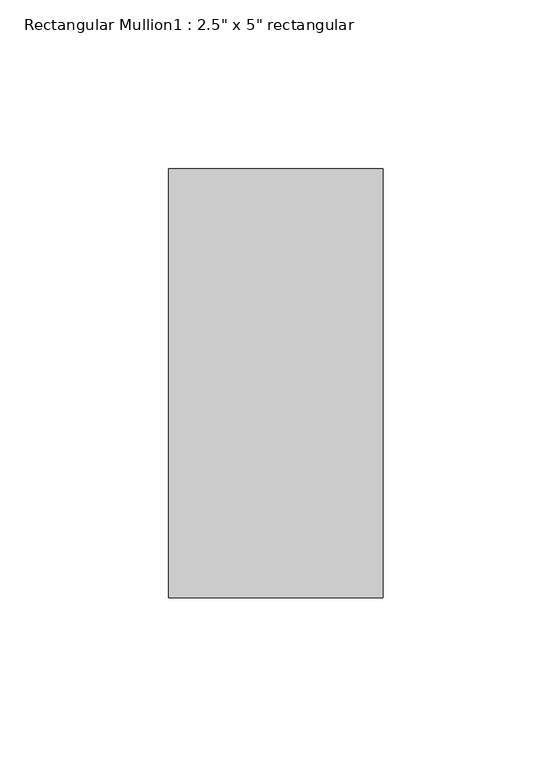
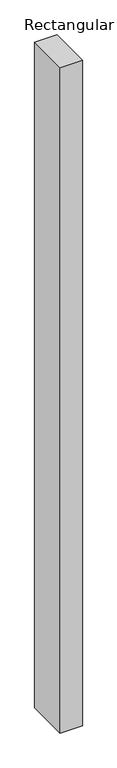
"""IFC4 building model written with IfcOpenShell, lengths in millimetres: member geometry."""

from ifc_helpers import new_model, si_unit, frame, origin, place, context, project, spatial, polyline, outline, extrude, source, transform, mapped, element, save


def member_3a2f4316(model_context):
    return source(origin(), model_context, "Body", "SweptSolid", [
        extrude(outline(polyline([(0.0, 63.5), (0.0, -63.5), (-63.5, -63.5), (-63.5, 63.5), (0.0, 63.5)])), frame((0.0, 0.0, -2021.4166667), z_axis=(0.0, 0.0, 1.0), x_axis=(1.0, 0.0, 0.0)), (0.0, 0.0, 1.0), 2021.4166667),
    ])


if __name__ == "__main__":
    model = new_model("IFC4")
    model_context = context("Model", 3, world=origin())
    ifc_project = project(units=[si_unit("LENGTHUNIT", "METRE", prefix="MILLI")], contexts=[model_context])
    site = spatial("IfcSite", under=ifc_project)
    building = spatial("IfcBuilding", under=site)
    placement = place(None, origin())
    member_shape = member_3a2f4316(model_context)
    element("IfcMember", 1, ObjectType="Rectangular Mullion1 : 2.5\" x 5\" rectangular", at=placement, inside=building, context=model_context, shape_type="MappedRepresentation", body=[
        mapped(member_shape, transform((0.0, 0.0, 0.0), x_axis=(1.0, 0.0, 0.0), y_axis=(0.0, 1.0, 0.0), z_axis=(0.0, 0.0, 1.0))),
    ])
    save(model, "model.ifc")
